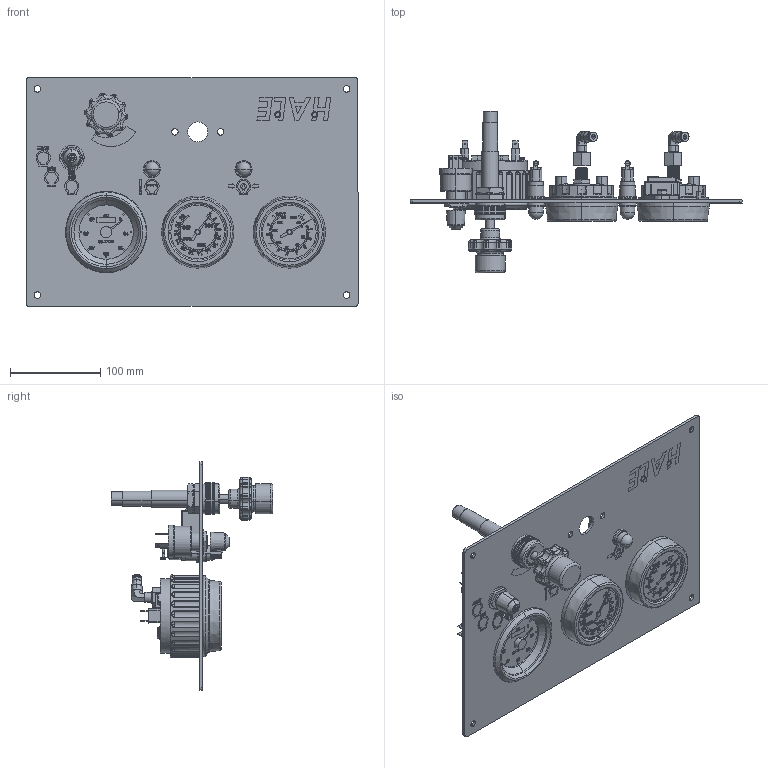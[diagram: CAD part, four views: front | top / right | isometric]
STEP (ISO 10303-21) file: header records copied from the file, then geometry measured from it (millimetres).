
FILE_DESCRIPTION (( 'STEP AP214' ), '1' );
FILE_NAME ('HPX-KBD XTREME PANEL ASSEMBLY.STEP', '2017-10-30T12:02:05', ( '' ), ( '' ), 'SwSTEP 2.0', 'SolidWorks 2016', '' );
FILE_SCHEMA (( 'AUTOMOTIVE_DESIGN' ));
Length unit declared in the file: millimetre
Products named in the file (1): HPX-KBD XTREME PANEL ASSEMBLY
Bounding box: 368.3 x 179.4 x 254 mm (x, y, z)
Surface area: 302745.9 mm2 (no closed solid volume)
Topology: 0 solids, 110 shells, 2001 faces, 8190 edges, 5980 vertices
Faces by surface type: plane 777, cylinder 450, torus 333, bspline 215, cone 162, sphere 64
Entity records: 146286 total; most frequent: CARTESIAN_POINT 62221, ORIENTED_EDGE 11702, DIRECTION 11627, EDGE_CURVE 8130, VERTEX_POINT 5976, AXIS2_PLACEMENT_3D 3931, LINE 3765, VECTOR 3765
